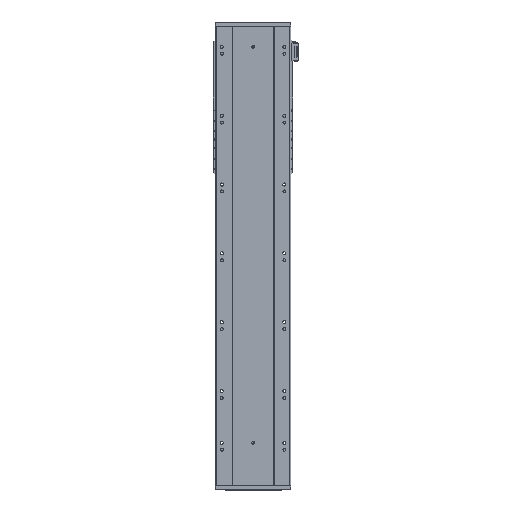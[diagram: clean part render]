
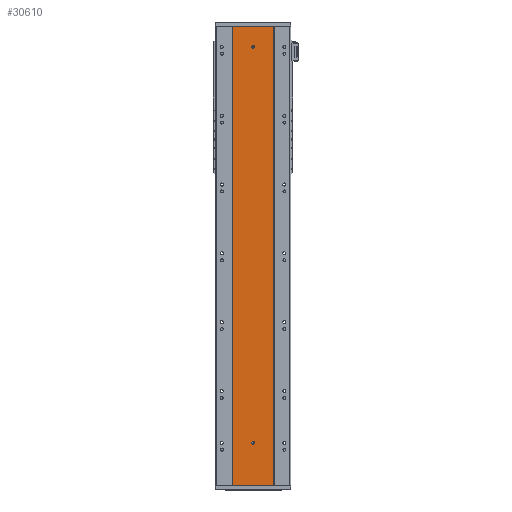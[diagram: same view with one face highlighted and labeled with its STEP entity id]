
A CAD part, front view. The second image highlights one B-rep face of the part: STEP entity #30610.
In plain terms, the highlighted planar face has unit normal (0, -1, 0).
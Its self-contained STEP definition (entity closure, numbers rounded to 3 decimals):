
#1776 = EDGE_CURVE ( 'NONE', #49917, #22972, #20569, .T. ) ;
#2862 = CARTESIAN_POINT ( 'NONE',  ( -60., 0., 1335. ) ) ;
#3427 = CARTESIAN_POINT ( 'NONE',  ( -60., 0., 0. ) ) ;
#3858 = CARTESIAN_POINT ( 'NONE',  ( 0., 0., 1275. ) ) ;
#4226 = CARTESIAN_POINT ( 'NONE',  ( 0., 0., 125. ) ) ;
#4806 = CARTESIAN_POINT ( 'NONE',  ( 0., 0., 1279. ) ) ;
#7791 = CARTESIAN_POINT ( 'NONE',  ( -60., 0., 0. ) ) ;
#8177 = DIRECTION ( 'NONE',  ( 1., 0., 0. ) ) ;
#8359 = VERTEX_POINT ( 'NONE', #37529 ) ;
#9048 = LINE ( 'NONE', #54804, #28178 ) ;
#9853 = ORIENTED_EDGE ( 'NONE', *, *, #34206, .F. ) ;
#10192 = CIRCLE ( 'NONE', #42874, 4. ) ;
#10339 = CARTESIAN_POINT ( 'NONE',  ( 60., 0., 1335. ) ) ;
#10379 = LINE ( 'NONE', #16444, #60407 ) ;
#11596 = CIRCLE ( 'NONE', #51575, 4. ) ;
#12995 = CIRCLE ( 'NONE', #40802, 4. ) ;
#13196 = ORIENTED_EDGE ( 'NONE', *, *, #1776, .F. ) ;
#13881 = EDGE_CURVE ( 'NONE', #54740, #30185, #51840, .T. ) ;
#13898 = DIRECTION ( 'NONE',  ( 0., 1., 0. ) ) ;
#14756 = DIRECTION ( 'NONE',  ( 0., 0., -1. ) ) ;
#14918 = VERTEX_POINT ( 'NONE', #54667 ) ;
#16444 = CARTESIAN_POINT ( 'NONE',  ( 60., 0., 1335. ) ) ;
#18060 = DIRECTION ( 'NONE',  ( 0., 0., 1. ) ) ;
#19305 = EDGE_CURVE ( 'NONE', #38925, #8359, #11596, .T. ) ;
#20194 = CARTESIAN_POINT ( 'NONE',  ( 0., 0., 121. ) ) ;
#20569 = CIRCLE ( 'NONE', #36446, 4. ) ;
#21458 = EDGE_CURVE ( 'NONE', #55823, #14918, #10379, .T. ) ;
#22821 = PLANE ( 'NONE',  #50829 ) ;
#22972 = VERTEX_POINT ( 'NONE', #45825 ) ;
#23239 = CARTESIAN_POINT ( 'NONE',  ( -60., 0., 1335. ) ) ;
#23691 = CARTESIAN_POINT ( 'NONE',  ( 0., 0., 125. ) ) ;
#24185 = FACE_BOUND ( 'NONE', #43018, .T. ) ;
#26056 = ORIENTED_EDGE ( 'NONE', *, *, #36165, .T. ) ;
#26363 = LINE ( 'NONE', #7791, #57212 ) ;
#27737 = DIRECTION ( 'NONE',  ( 0., 0., -1. ) ) ;
#28178 = VECTOR ( 'NONE', #54990, 1000. ) ;
#29990 = CARTESIAN_POINT ( 'NONE',  ( 0., 0., 1275. ) ) ;
#30184 = DIRECTION ( 'NONE',  ( 0., -1., 0. ) ) ;
#30185 = VERTEX_POINT ( 'NONE', #3427 ) ;
#30610 = ADVANCED_FACE ( 'NONE', ( #46239, #24185, #39598 ), #22821, .F. ) ;
#34206 = EDGE_CURVE ( 'NONE', #54740, #55823, #9048, .T. ) ;
#34734 = DIRECTION ( 'NONE',  ( 0., 0., -1. ) ) ;
#35842 = EDGE_CURVE ( 'NONE', #8359, #38925, #10192, .T. ) ;
#36165 = EDGE_CURVE ( 'NONE', #30185, #14918, #26363, .T. ) ;
#36446 = AXIS2_PLACEMENT_3D ( 'NONE', #3858, #41741, #27737 ) ;
#37529 = CARTESIAN_POINT ( 'NONE',  ( 0., 0., 129. ) ) ;
#38925 = VERTEX_POINT ( 'NONE', #20194 ) ;
#39598 = FACE_OUTER_BOUND ( 'NONE', #46971, .T. ) ;
#40802 = AXIS2_PLACEMENT_3D ( 'NONE', #29990, #30184, #34734 ) ;
#41494 = DIRECTION ( 'NONE',  ( 0., 0., -1. ) ) ;
#41741 = DIRECTION ( 'NONE',  ( 0., -1., 0. ) ) ;
#42005 = ORIENTED_EDGE ( 'NONE', *, *, #13881, .T. ) ;
#42874 = AXIS2_PLACEMENT_3D ( 'NONE', #23691, #56359, #52016 ) ;
#43018 = EDGE_LOOP ( 'NONE', ( #45404, #44555 ) ) ;
#43806 = VECTOR ( 'NONE', #14756, 1000. ) ;
#44527 = EDGE_LOOP ( 'NONE', ( #54061, #13196 ) ) ;
#44555 = ORIENTED_EDGE ( 'NONE', *, *, #35842, .F. ) ;
#44872 = DIRECTION ( 'NONE',  ( 0., 0., -1. ) ) ;
#45404 = ORIENTED_EDGE ( 'NONE', *, *, #19305, .F. ) ;
#45825 = CARTESIAN_POINT ( 'NONE',  ( 0., 0., 1271. ) ) ;
#46035 = DIRECTION ( 'NONE',  ( 0., -1., 0. ) ) ;
#46239 = FACE_BOUND ( 'NONE', #44527, .T. ) ;
#46971 = EDGE_LOOP ( 'NONE', ( #26056, #59492, #9853, #42005 ) ) ;
#49552 = EDGE_CURVE ( 'NONE', #22972, #49917, #12995, .T. ) ;
#49917 = VERTEX_POINT ( 'NONE', #4806 ) ;
#50829 = AXIS2_PLACEMENT_3D ( 'NONE', #23239, #13898, #18060 ) ;
#51575 = AXIS2_PLACEMENT_3D ( 'NONE', #4226, #46035, #41494 ) ;
#51840 = LINE ( 'NONE', #57563, #43806 ) ;
#52016 = DIRECTION ( 'NONE',  ( 0., 0., -1. ) ) ;
#54061 = ORIENTED_EDGE ( 'NONE', *, *, #49552, .F. ) ;
#54667 = CARTESIAN_POINT ( 'NONE',  ( 60., 0., 0. ) ) ;
#54740 = VERTEX_POINT ( 'NONE', #2862 ) ;
#54804 = CARTESIAN_POINT ( 'NONE',  ( -60., 0., 1335. ) ) ;
#54990 = DIRECTION ( 'NONE',  ( 1., 0., 0. ) ) ;
#55823 = VERTEX_POINT ( 'NONE', #10339 ) ;
#56359 = DIRECTION ( 'NONE',  ( 0., -1., 0. ) ) ;
#57212 = VECTOR ( 'NONE', #8177, 1000. ) ;
#57563 = CARTESIAN_POINT ( 'NONE',  ( -60., 0., 1335. ) ) ;
#59492 = ORIENTED_EDGE ( 'NONE', *, *, #21458, .F. ) ;
#60407 = VECTOR ( 'NONE', #44872, 1000. ) ;
